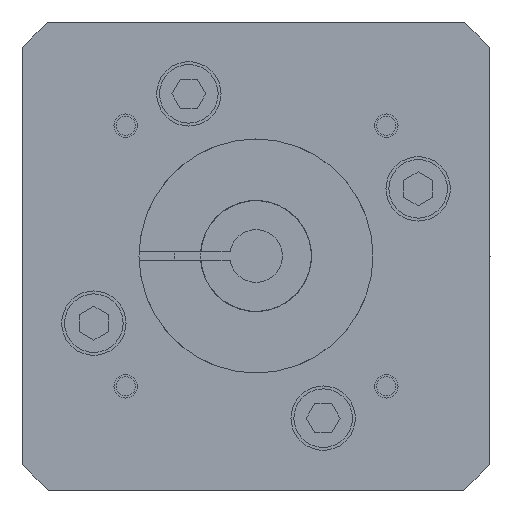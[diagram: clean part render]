
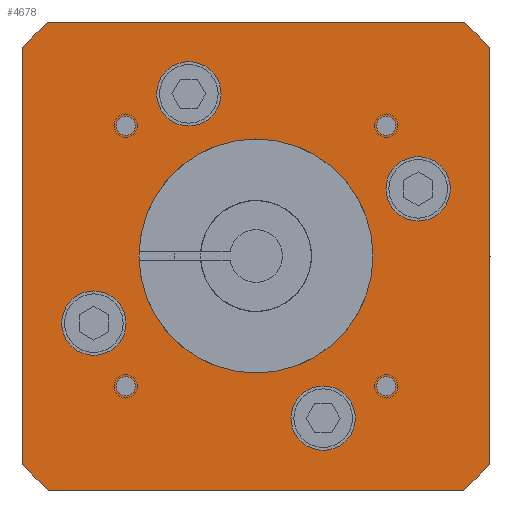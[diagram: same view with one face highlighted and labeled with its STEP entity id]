
A CAD part, left-side view. The second image highlights one B-rep face of the part: STEP entity #4678.
In plain terms, the highlighted planar face has unit normal (-1, 0, 0).
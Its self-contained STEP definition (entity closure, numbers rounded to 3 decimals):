
#801=CARTESIAN_POINT('',(0.,0.,0.));
#802=DIRECTION('',(-1.,0.,0.));
#803=DIRECTION('',(0.,-0.748,0.664));
#804=AXIS2_PLACEMENT_3D('',#801,#802,#803);
#806=DIRECTION('',(0.,0.,1.));
#807=VECTOR('',#806,71.056);
#808=CARTESIAN_POINT('',(0.,-40.,-35.528));
#809=LINE('',#808,#807);
#810=CARTESIAN_POINT('',(0.,0.,0.));
#811=DIRECTION('',(-1.,0.,0.));
#812=DIRECTION('',(0.,-0.664,-0.748));
#813=AXIS2_PLACEMENT_3D('',#810,#811,#812);
#815=DIRECTION('',(0.,-1.,0.));
#816=VECTOR('',#815,71.056);
#817=CARTESIAN_POINT('',(0.,35.528,-40.));
#818=LINE('',#817,#816);
#819=CARTESIAN_POINT('',(0.,0.,0.));
#820=DIRECTION('',(-1.,0.,0.));
#821=DIRECTION('',(0.,0.748,-0.664));
#822=AXIS2_PLACEMENT_3D('',#819,#820,#821);
#824=DIRECTION('',(0.,0.,-1.));
#825=VECTOR('',#824,71.056);
#826=CARTESIAN_POINT('',(0.,40.,35.528));
#827=LINE('',#826,#825);
#828=CARTESIAN_POINT('',(0.,0.,0.));
#829=DIRECTION('',(-1.,0.,0.));
#830=DIRECTION('',(0.,0.664,0.748));
#831=AXIS2_PLACEMENT_3D('',#828,#829,#830);
#833=DIRECTION('',(0.,1.,0.));
#834=VECTOR('',#833,71.056);
#835=CARTESIAN_POINT('',(0.,-35.528,40.));
#836=LINE('',#835,#834);
#837=CARTESIAN_POINT('',(0.,-22.274,22.274));
#838=DIRECTION('',(-1.,0.,0.));
#839=DIRECTION('',(0.,0.,-1.));
#840=AXIS2_PLACEMENT_3D('',#837,#838,#839);
#842=CARTESIAN_POINT('',(0.,-22.274,22.274));
#843=DIRECTION('',(-1.,0.,0.));
#844=DIRECTION('',(0.,0.,1.));
#845=AXIS2_PLACEMENT_3D('',#842,#843,#844);
#847=CARTESIAN_POINT('',(0.,-22.274,-22.274));
#848=DIRECTION('',(-1.,0.,0.));
#849=DIRECTION('',(0.,0.,-1.));
#850=AXIS2_PLACEMENT_3D('',#847,#848,#849);
#852=CARTESIAN_POINT('',(0.,-22.274,-22.274));
#853=DIRECTION('',(-1.,0.,0.));
#854=DIRECTION('',(0.,0.,1.));
#855=AXIS2_PLACEMENT_3D('',#852,#853,#854);
#857=CARTESIAN_POINT('',(0.,22.274,-22.274));
#858=DIRECTION('',(-1.,0.,0.));
#859=DIRECTION('',(0.,0.,-1.));
#860=AXIS2_PLACEMENT_3D('',#857,#858,#859);
#862=CARTESIAN_POINT('',(0.,22.274,-22.274));
#863=DIRECTION('',(-1.,0.,0.));
#864=DIRECTION('',(0.,0.,1.));
#865=AXIS2_PLACEMENT_3D('',#862,#863,#864);
#867=CARTESIAN_POINT('',(0.,22.274,22.274));
#868=DIRECTION('',(-1.,0.,0.));
#869=DIRECTION('',(0.,0.,-1.));
#870=AXIS2_PLACEMENT_3D('',#867,#868,#869);
#872=CARTESIAN_POINT('',(0.,22.274,22.274));
#873=DIRECTION('',(-1.,0.,0.));
#874=DIRECTION('',(0.,0.,1.));
#875=AXIS2_PLACEMENT_3D('',#872,#873,#874);
#877=CARTESIAN_POINT('',(0.,-27.716,11.481));
#878=DIRECTION('',(-1.,0.,0.));
#879=DIRECTION('',(0.,0.,1.));
#880=AXIS2_PLACEMENT_3D('',#877,#878,#879);
#882=CARTESIAN_POINT('',(0.,-27.716,11.481));
#883=DIRECTION('',(-1.,0.,0.));
#884=DIRECTION('',(0.,0.,-1.));
#885=AXIS2_PLACEMENT_3D('',#882,#883,#884);
#887=CARTESIAN_POINT('',(0.,-11.481,-27.716));
#888=DIRECTION('',(-1.,0.,0.));
#889=DIRECTION('',(0.,0.,-1.));
#890=AXIS2_PLACEMENT_3D('',#887,#888,#889);
#892=CARTESIAN_POINT('',(0.,-11.481,-27.716));
#893=DIRECTION('',(-1.,0.,0.));
#894=DIRECTION('',(0.,0.,1.));
#895=AXIS2_PLACEMENT_3D('',#892,#893,#894);
#897=CARTESIAN_POINT('',(0.,27.716,-11.481));
#898=DIRECTION('',(-1.,0.,0.));
#899=DIRECTION('',(0.,0.,-1.));
#900=AXIS2_PLACEMENT_3D('',#897,#898,#899);
#902=CARTESIAN_POINT('',(0.,27.716,-11.481));
#903=DIRECTION('',(-1.,0.,0.));
#904=DIRECTION('',(0.,0.,1.));
#905=AXIS2_PLACEMENT_3D('',#902,#903,#904);
#907=CARTESIAN_POINT('',(0.,11.481,27.716));
#908=DIRECTION('',(-1.,0.,0.));
#909=DIRECTION('',(0.,0.,-1.));
#910=AXIS2_PLACEMENT_3D('',#907,#908,#909);
#912=CARTESIAN_POINT('',(0.,11.481,27.716));
#913=DIRECTION('',(-1.,0.,0.));
#914=DIRECTION('',(0.,0.,1.));
#915=AXIS2_PLACEMENT_3D('',#912,#913,#914);
#917=CARTESIAN_POINT('',(0.,0.,0.));
#918=DIRECTION('',(1.,0.,0.));
#919=DIRECTION('',(0.,-1.,0.));
#920=AXIS2_PLACEMENT_3D('',#917,#918,#919);
#930=CARTESIAN_POINT('',(0.,0.,0.));
#931=DIRECTION('',(-1.,0.,0.));
#932=DIRECTION('',(0.,-1.,0.));
#933=AXIS2_PLACEMENT_3D('',#930,#931,#932);
#3051=CARTESIAN_POINT('',(0.,-40.,35.528));
#3052=CARTESIAN_POINT('',(0.,-35.528,40.));
#3053=VERTEX_POINT('',#3051);
#3054=VERTEX_POINT('',#3052);
#3055=CARTESIAN_POINT('',(0.,35.528,40.));
#3056=VERTEX_POINT('',#3055);
#3057=CARTESIAN_POINT('',(0.,40.,35.528));
#3058=VERTEX_POINT('',#3057);
#3059=CARTESIAN_POINT('',(0.,40.,-35.528));
#3060=VERTEX_POINT('',#3059);
#3061=CARTESIAN_POINT('',(0.,35.528,-40.));
#3062=VERTEX_POINT('',#3061);
#3063=CARTESIAN_POINT('',(0.,-35.528,-40.));
#3064=VERTEX_POINT('',#3063);
#3065=CARTESIAN_POINT('',(0.,-40.,-35.528));
#3066=VERTEX_POINT('',#3065);
#3115=CARTESIAN_POINT('',(0.,-22.274,20.624));
#3116=VERTEX_POINT('',#3115);
#3117=CARTESIAN_POINT('',(0.,-22.274,23.924));
#3118=VERTEX_POINT('',#3117);
#3119=CARTESIAN_POINT('',(0.,-22.274,-23.924));
#3120=VERTEX_POINT('',#3119);
#3121=CARTESIAN_POINT('',(0.,-22.274,-20.624));
#3122=VERTEX_POINT('',#3121);
#3123=CARTESIAN_POINT('',(0.,22.274,-23.924));
#3124=VERTEX_POINT('',#3123);
#3125=CARTESIAN_POINT('',(0.,22.274,-20.624));
#3126=VERTEX_POINT('',#3125);
#3127=CARTESIAN_POINT('',(0.,22.274,20.624));
#3128=VERTEX_POINT('',#3127);
#3129=CARTESIAN_POINT('',(0.,22.274,23.924));
#3130=VERTEX_POINT('',#3129);
#3147=CARTESIAN_POINT('',(0.,-11.481,-22.216));
#3149=VERTEX_POINT('',#3147);
#3151=CARTESIAN_POINT('',(0.,11.481,22.216));
#3153=VERTEX_POINT('',#3151);
#3335=CARTESIAN_POINT('',(0.,-20.,0.));
#3337=VERTEX_POINT('',#3335);
#3343=CARTESIAN_POINT('',(0.,20.,0.));
#3345=VERTEX_POINT('',#3343);
#3355=CARTESIAN_POINT('',(0.,-27.716,16.981));
#3356=CARTESIAN_POINT('',(0.,-27.716,5.981));
#3357=VERTEX_POINT('',#3355);
#3358=VERTEX_POINT('',#3356);
#3359=CARTESIAN_POINT('',(0.,-11.481,-33.216));
#3360=VERTEX_POINT('',#3359);
#3361=CARTESIAN_POINT('',(0.,27.716,-16.981));
#3362=CARTESIAN_POINT('',(0.,27.716,-5.981));
#3363=VERTEX_POINT('',#3361);
#3364=VERTEX_POINT('',#3362);
#3365=CARTESIAN_POINT('',(0.,11.481,33.216));
#3366=VERTEX_POINT('',#3365);
#4609=CARTESIAN_POINT('',(0.,0.,0.));
#4610=DIRECTION('',(1.,0.,0.));
#4611=DIRECTION('',(0.,1.,0.));
#4612=AXIS2_PLACEMENT_3D('',#4609,#4610,#4611);
#4613=PLANE('',#4612);
#4614=ORIENTED_EDGE('',*,*,#4499,.F.);
#4615=ORIENTED_EDGE('',*,*,#4514,.F.);
#4616=ORIENTED_EDGE('',*,*,#4528,.F.);
#4617=ORIENTED_EDGE('',*,*,#4542,.F.);
#4618=ORIENTED_EDGE('',*,*,#4562,.F.);
#4619=ORIENTED_EDGE('',*,*,#4576,.F.);
#4620=ORIENTED_EDGE('',*,*,#4590,.F.);
#4621=ORIENTED_EDGE('',*,*,#4603,.F.);
#4622=EDGE_LOOP('',(#4614,#4615,#4616,#4617,#4618,#4619,#4620,#4621));
#4623=FACE_OUTER_BOUND('',#4622,.F.);
#4625=ORIENTED_EDGE('',*,*,#4624,.F.);
#4627=ORIENTED_EDGE('',*,*,#4626,.T.);
#4628=EDGE_LOOP('',(#4625,#4627));
#4629=FACE_BOUND('',#4628,.F.);
#4631=ORIENTED_EDGE('',*,*,#4630,.T.);
#4633=ORIENTED_EDGE('',*,*,#4632,.T.);
#4634=EDGE_LOOP('',(#4631,#4633));
#4635=FACE_BOUND('',#4634,.F.);
#4637=ORIENTED_EDGE('',*,*,#4636,.T.);
#4639=ORIENTED_EDGE('',*,*,#4638,.T.);
#4640=EDGE_LOOP('',(#4637,#4639));
#4641=FACE_BOUND('',#4640,.F.);
#4643=ORIENTED_EDGE('',*,*,#4642,.T.);
#4645=ORIENTED_EDGE('',*,*,#4644,.T.);
#4646=EDGE_LOOP('',(#4643,#4645));
#4647=FACE_BOUND('',#4646,.F.);
#4649=ORIENTED_EDGE('',*,*,#4648,.T.);
#4651=ORIENTED_EDGE('',*,*,#4650,.T.);
#4652=EDGE_LOOP('',(#4649,#4651));
#4653=FACE_BOUND('',#4652,.F.);
#4655=ORIENTED_EDGE('',*,*,#4654,.T.);
#4657=ORIENTED_EDGE('',*,*,#4656,.T.);
#4658=EDGE_LOOP('',(#4655,#4657));
#4659=FACE_BOUND('',#4658,.F.);
#4661=ORIENTED_EDGE('',*,*,#4660,.T.);
#4663=ORIENTED_EDGE('',*,*,#4662,.T.);
#4664=EDGE_LOOP('',(#4661,#4663));
#4665=FACE_BOUND('',#4664,.F.);
#4667=ORIENTED_EDGE('',*,*,#4666,.T.);
#4669=ORIENTED_EDGE('',*,*,#4668,.T.);
#4670=EDGE_LOOP('',(#4667,#4669));
#4671=FACE_BOUND('',#4670,.F.);
#4673=ORIENTED_EDGE('',*,*,#4672,.T.);
#4675=ORIENTED_EDGE('',*,*,#4674,.T.);
#4676=EDGE_LOOP('',(#4673,#4675));
#4677=FACE_BOUND('',#4676,.F.);
#805=CIRCLE('',#804,53.5);
#814=CIRCLE('',#813,53.5);
#823=CIRCLE('',#822,53.5);
#832=CIRCLE('',#831,53.5);
#841=CIRCLE('',#840,1.65);
#846=CIRCLE('',#845,1.65);
#851=CIRCLE('',#850,1.65);
#856=CIRCLE('',#855,1.65);
#861=CIRCLE('',#860,1.65);
#866=CIRCLE('',#865,1.65);
#871=CIRCLE('',#870,1.65);
#876=CIRCLE('',#875,1.65);
#881=CIRCLE('',#880,5.5);
#886=CIRCLE('',#885,5.5);
#891=CIRCLE('',#890,5.5);
#896=CIRCLE('',#895,5.5);
#901=CIRCLE('',#900,5.5);
#906=CIRCLE('',#905,5.5);
#911=CIRCLE('',#910,5.5);
#916=CIRCLE('',#915,5.5);
#921=CIRCLE('',#920,20.);
#934=CIRCLE('',#933,20.);
#4499=EDGE_CURVE('',#3053,#3054,#805,.T.);
#4514=EDGE_CURVE('',#3066,#3053,#809,.T.);
#4528=EDGE_CURVE('',#3064,#3066,#814,.T.);
#4542=EDGE_CURVE('',#3062,#3064,#818,.T.);
#4562=EDGE_CURVE('',#3060,#3062,#823,.T.);
#4576=EDGE_CURVE('',#3058,#3060,#827,.T.);
#4590=EDGE_CURVE('',#3056,#3058,#832,.T.);
#4603=EDGE_CURVE('',#3054,#3056,#836,.T.);
#4624=EDGE_CURVE('',#3337,#3345,#921,.T.);
#4626=EDGE_CURVE('',#3337,#3345,#934,.T.);
#4630=EDGE_CURVE('',#3116,#3118,#841,.T.);
#4632=EDGE_CURVE('',#3118,#3116,#846,.T.);
#4636=EDGE_CURVE('',#3120,#3122,#851,.T.);
#4638=EDGE_CURVE('',#3122,#3120,#856,.T.);
#4642=EDGE_CURVE('',#3124,#3126,#861,.T.);
#4644=EDGE_CURVE('',#3126,#3124,#866,.T.);
#4648=EDGE_CURVE('',#3128,#3130,#871,.T.);
#4650=EDGE_CURVE('',#3130,#3128,#876,.T.);
#4654=EDGE_CURVE('',#3357,#3358,#881,.T.);
#4656=EDGE_CURVE('',#3358,#3357,#886,.T.);
#4660=EDGE_CURVE('',#3360,#3149,#891,.T.);
#4662=EDGE_CURVE('',#3149,#3360,#896,.T.);
#4666=EDGE_CURVE('',#3363,#3364,#901,.T.);
#4668=EDGE_CURVE('',#3364,#3363,#906,.T.);
#4672=EDGE_CURVE('',#3153,#3366,#911,.T.);
#4674=EDGE_CURVE('',#3366,#3153,#916,.T.);
#4678=ADVANCED_FACE('',(#4623,#4629,#4635,#4641,#4647,#4653,#4659,#4665,#4671,
#4677),#4613,.F.);
